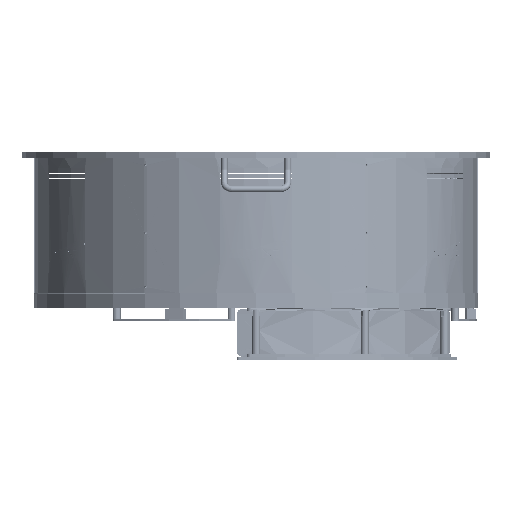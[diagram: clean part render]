
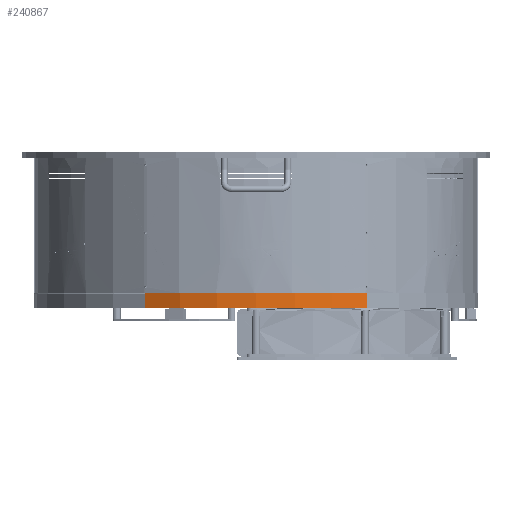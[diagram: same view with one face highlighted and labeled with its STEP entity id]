
A CAD part, front view. The second image highlights one B-rep face of the part: STEP entity #240867.
In plain terms, the highlighted cylindrical face has radius 422 mm (diameter 844 mm), a partial arc.
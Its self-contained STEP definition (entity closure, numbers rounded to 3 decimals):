
#19332 = VERTEX_POINT ( 'NONE', #652608 ) ;
#42360 = EDGE_CURVE ( 'NONE', #68049, #400662, #354811, .T. ) ;
#45299 = DIRECTION ( 'NONE',  ( -1., 0., 0. ) ) ;
#68049 = VERTEX_POINT ( 'NONE', #213243 ) ;
#93227 = DIRECTION ( 'NONE',  ( 0., 0., -1. ) ) ;
#96739 = EDGE_LOOP ( 'NONE', ( #280106, #100217, #670249, #157527 ) ) ;
#100217 = ORIENTED_EDGE ( 'NONE', *, *, #42360, .T. ) ;
#114748 = AXIS2_PLACEMENT_3D ( 'NONE', #376116, #430711, #639090 ) ;
#142747 = EDGE_CURVE ( 'NONE', #68049, #19332, #345827, .T. ) ;
#157527 = ORIENTED_EDGE ( 'NONE', *, *, #454549, .T. ) ;
#200837 = CIRCLE ( 'NONE', #375503, 422. ) ;
#213243 = CARTESIAN_POINT ( 'NONE',  ( -211., -365.463, 28. ) ) ;
#240867 = ADVANCED_FACE ( 'NONE', ( #619310 ), #458857, .T. ) ;
#280106 = ORIENTED_EDGE ( 'NONE', *, *, #142747, .F. ) ;
#292749 = DIRECTION ( 'NONE',  ( 1., 0., 0. ) ) ;
#302325 = CARTESIAN_POINT ( 'NONE',  ( -422., 0., 0. ) ) ;
#340540 = CARTESIAN_POINT ( 'NONE',  ( -422., 0., 29. ) ) ;
#345827 = LINE ( 'NONE', #564265, #461840 ) ;
#354811 = CIRCLE ( 'NONE', #114748, 422. ) ;
#359731 = CARTESIAN_POINT ( 'NONE',  ( 0., 0., 29. ) ) ;
#371816 = EDGE_CURVE ( 'NONE', #400662, #581146, #542137, .T. ) ;
#375503 = AXIS2_PLACEMENT_3D ( 'NONE', #562511, #398650, #292749 ) ;
#376116 = CARTESIAN_POINT ( 'NONE',  ( 0., 0., 28. ) ) ;
#398650 = DIRECTION ( 'NONE',  ( 0., 0., 1. ) ) ;
#400662 = VERTEX_POINT ( 'NONE', #562247 ) ;
#430711 = DIRECTION ( 'NONE',  ( 0., 0., -1. ) ) ;
#454549 = EDGE_CURVE ( 'NONE', #581146, #19332, #200837, .T. ) ;
#458857 = CYLINDRICAL_SURFACE ( 'NONE', #571756, 422. ) ;
#461840 = VECTOR ( 'NONE', #554157, 1000. ) ;
#542137 = LINE ( 'NONE', #340540, #582528 ) ;
#554157 = DIRECTION ( 'NONE',  ( 0., 0., -1. ) ) ;
#562247 = CARTESIAN_POINT ( 'NONE',  ( -422., 0., 28. ) ) ;
#562511 = CARTESIAN_POINT ( 'NONE',  ( 0., 0., 0. ) ) ;
#564265 = CARTESIAN_POINT ( 'NONE',  ( -211., -365.463, 29. ) ) ;
#571756 = AXIS2_PLACEMENT_3D ( 'NONE', #359731, #93227, #45299 ) ;
#581146 = VERTEX_POINT ( 'NONE', #302325 ) ;
#582528 = VECTOR ( 'NONE', #641324, 1000. ) ;
#619310 = FACE_OUTER_BOUND ( 'NONE', #96739, .T. ) ;
#639090 = DIRECTION ( 'NONE',  ( 1., 0., 0. ) ) ;
#641324 = DIRECTION ( 'NONE',  ( 0., 0., -1. ) ) ;
#652608 = CARTESIAN_POINT ( 'NONE',  ( -211., -365.463, 0. ) ) ;
#670249 = ORIENTED_EDGE ( 'NONE', *, *, #371816, .T. ) ;
